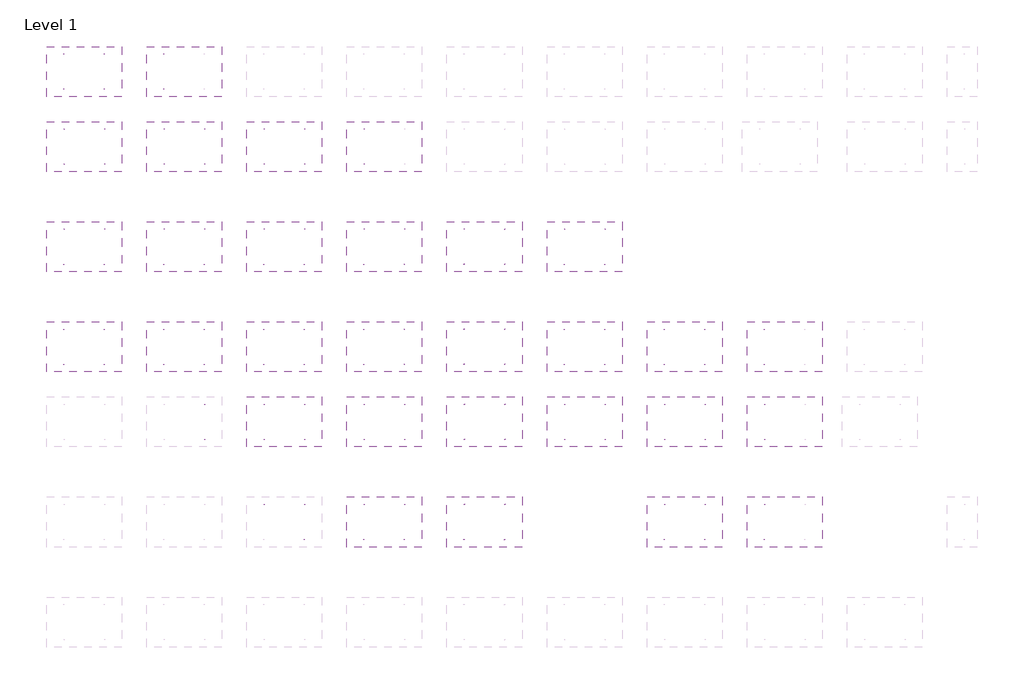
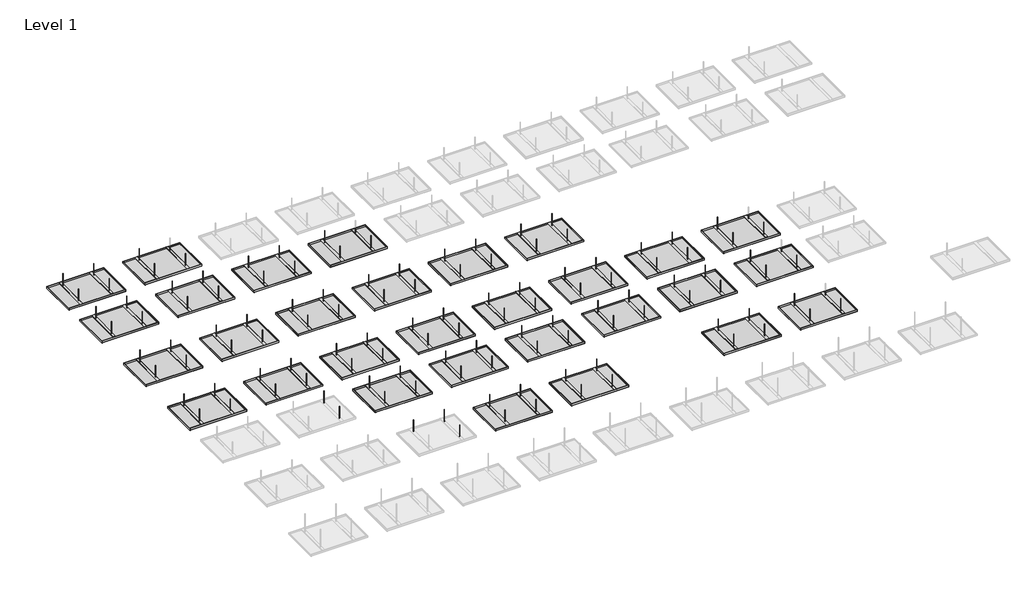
# One storey, part 17 of 32: 145 proxies.
"""IFC4 building model written with IfcOpenShell, lengths in millimetres."""

from ifc_helpers import new_model, si_unit, origin, place, context, project, spatial, transform, mapped, element, save
from components import generic_models_ee162b96, generic_models_85b4ffa8

model = new_model("IFC4")

# Units and contexts
model_context = context("Model", 3, world=origin())
ifc_project = project(units=[si_unit("LENGTHUNIT", "METRE", prefix="MILLI")], contexts=[model_context])

# Site, building, storey
site = spatial("IfcSite", under=ifc_project)
building = spatial("IfcBuilding", under=site)
storey = spatial("IfcBuildingStorey", under=building, Name="Level 1", Elevation=0.0)

# Proxies
placement = place(None, origin())
generic_models_shape = generic_models_ee162b96(model_context)
element("IfcBuildingElementProxy", 1, Name="durlum_threaded_rod_M6 : durlum_threaded_rod_M6", ObjectType="durlum_threaded_rod_M6 : durlum_threaded_rod_M6", at=placement, inside=storey, context=model_context, shape_type="MappedRepresentation", body=[
    mapped(generic_models_shape, transform((-45821.531136, 22508.7392516, 3672.1013669), x_axis=(0.0, -1.0, 0.0), y_axis=(1.0, 0.0, 0.0), z_axis=(0.0, 0.0, 1.0))),
])
element("IfcBuildingElementProxy", 2, Name="durlum_threaded_rod_M6 : durlum_threaded_rod_M6", ObjectType="durlum_threaded_rod_M6 : durlum_threaded_rod_M6", at=placement, inside=storey, context=model_context, shape_type="MappedRepresentation", body=[
    mapped(generic_models_shape, transform((-45821.531136, 23208.7392516, 3672.1013669), x_axis=(0.0, -1.0, 0.0), y_axis=(1.0, 0.0, 0.0), z_axis=(0.0, 0.0, 1.0))),
])
element("IfcBuildingElementProxy", 3, Name="durlum_threaded_rod_M6 : durlum_threaded_rod_M6", ObjectType="durlum_threaded_rod_M6 : durlum_threaded_rod_M6", at=placement, inside=storey, context=model_context, shape_type="MappedRepresentation", body=[
    mapped(generic_models_shape, transform((-46631.531136, 22508.7392516, 3672.1013669), x_axis=(0.0, -1.0, 0.0), y_axis=(1.0, 0.0, 0.0), z_axis=(0.0, 0.0, 1.0))),
])
element("IfcBuildingElementProxy", 4, Name="durlum_threaded_rod_M6 : durlum_threaded_rod_M6", ObjectType="durlum_threaded_rod_M6 : durlum_threaded_rod_M6", at=placement, inside=storey, context=model_context, shape_type="MappedRepresentation", body=[
    mapped(generic_models_shape, transform((-46631.531136, 23208.7392516, 3672.1013669), x_axis=(0.0, -1.0, 0.0), y_axis=(1.0, 0.0, 0.0), z_axis=(0.0, 0.0, 1.0))),
])
element("IfcBuildingElementProxy", 5, Name="durlum_threaded_rod_M6 : durlum_threaded_rod_M6", ObjectType="durlum_threaded_rod_M6 : durlum_threaded_rod_M6", at=placement, inside=storey, context=model_context, shape_type="MappedRepresentation", body=[
    mapped(generic_models_shape, transform((-43821.531136, 22508.7392516, 3672.1013669), x_axis=(0.0, -1.0, 0.0), y_axis=(1.0, 0.0, 0.0), z_axis=(0.0, 0.0, 1.0))),
])
element("IfcBuildingElementProxy", 6, Name="durlum_threaded_rod_M6 : durlum_threaded_rod_M6", ObjectType="durlum_threaded_rod_M6 : durlum_threaded_rod_M6", at=placement, inside=storey, context=model_context, shape_type="MappedRepresentation", body=[
    mapped(generic_models_shape, transform((-43821.531136, 23208.7392516, 3672.1013669), x_axis=(0.0, -1.0, 0.0), y_axis=(1.0, 0.0, 0.0), z_axis=(0.0, 0.0, 1.0))),
])
element("IfcBuildingElementProxy", 7, Name="durlum_threaded_rod_M6 : durlum_threaded_rod_M6", ObjectType="durlum_threaded_rod_M6 : durlum_threaded_rod_M6", at=placement, inside=storey, context=model_context, shape_type="MappedRepresentation", body=[
    mapped(generic_models_shape, transform((-44631.531136, 22508.7392516, 3672.1013669), x_axis=(0.0, -1.0, 0.0), y_axis=(1.0, 0.0, 0.0), z_axis=(0.0, 0.0, 1.0))),
])
element("IfcBuildingElementProxy", 8, Name="durlum_threaded_rod_M6 : durlum_threaded_rod_M6", ObjectType="durlum_threaded_rod_M6 : durlum_threaded_rod_M6", at=placement, inside=storey, context=model_context, shape_type="MappedRepresentation", body=[
    mapped(generic_models_shape, transform((-44631.531136, 23208.7392516, 3672.1013669), x_axis=(0.0, -1.0, 0.0), y_axis=(1.0, 0.0, 0.0), z_axis=(0.0, 0.0, 1.0))),
])
element("IfcBuildingElementProxy", 9, Name="durlum_threaded_rod_M6 : durlum_threaded_rod_M6", ObjectType="durlum_threaded_rod_M6 : durlum_threaded_rod_M6", at=placement, inside=storey, context=model_context, shape_type="MappedRepresentation", body=[
    mapped(generic_models_shape, transform((-41821.531136, 22508.7392516, 3672.1013669), x_axis=(0.0, -1.0, 0.0), y_axis=(1.0, 0.0, 0.0), z_axis=(0.0, 0.0, 1.0))),
])
element("IfcBuildingElementProxy", 10, Name="durlum_threaded_rod_M6 : durlum_threaded_rod_M6", ObjectType="durlum_threaded_rod_M6 : durlum_threaded_rod_M6", at=placement, inside=storey, context=model_context, shape_type="MappedRepresentation", body=[
    mapped(generic_models_shape, transform((-41821.531136, 23208.7392516, 3672.1013669), x_axis=(0.0, -1.0, 0.0), y_axis=(1.0, 0.0, 0.0), z_axis=(0.0, 0.0, 1.0))),
])
element("IfcBuildingElementProxy", 11, Name="durlum_threaded_rod_M6 : durlum_threaded_rod_M6", ObjectType="durlum_threaded_rod_M6 : durlum_threaded_rod_M6", at=placement, inside=storey, context=model_context, shape_type="MappedRepresentation", body=[
    mapped(generic_models_shape, transform((-42631.531136, 22508.7392516, 3672.1013669), x_axis=(0.0, -1.0, 0.0), y_axis=(1.0, 0.0, 0.0), z_axis=(0.0, 0.0, 1.0))),
])
element("IfcBuildingElementProxy", 12, Name="durlum_threaded_rod_M6 : durlum_threaded_rod_M6", ObjectType="durlum_threaded_rod_M6 : durlum_threaded_rod_M6", at=placement, inside=storey, context=model_context, shape_type="MappedRepresentation", body=[
    mapped(generic_models_shape, transform((-42631.531136, 23208.7392516, 3672.1013669), x_axis=(0.0, -1.0, 0.0), y_axis=(1.0, 0.0, 0.0), z_axis=(0.0, 0.0, 1.0))),
])
element("IfcBuildingElementProxy", 13, Name="durlum_threaded_rod_M6 : durlum_threaded_rod_M6", ObjectType="durlum_threaded_rod_M6 : durlum_threaded_rod_M6", at=placement, inside=storey, context=model_context, shape_type="MappedRepresentation", body=[
    mapped(generic_models_shape, transform((-39821.531136, 22508.7392516, 3672.1013669), x_axis=(0.0, -1.0, 0.0), y_axis=(1.0, 0.0, 0.0), z_axis=(0.0, 0.0, 1.0))),
])
element("IfcBuildingElementProxy", 14, Name="durlum_threaded_rod_M6 : durlum_threaded_rod_M6", ObjectType="durlum_threaded_rod_M6 : durlum_threaded_rod_M6", at=placement, inside=storey, context=model_context, shape_type="MappedRepresentation", body=[
    mapped(generic_models_shape, transform((-39821.531136, 23208.7392516, 3672.1013669), x_axis=(0.0, -1.0, 0.0), y_axis=(1.0, 0.0, 0.0), z_axis=(0.0, 0.0, 1.0))),
])
element("IfcBuildingElementProxy", 15, Name="durlum_threaded_rod_M6 : durlum_threaded_rod_M6", ObjectType="durlum_threaded_rod_M6 : durlum_threaded_rod_M6", at=placement, inside=storey, context=model_context, shape_type="MappedRepresentation", body=[
    mapped(generic_models_shape, transform((-40631.531136, 22508.7392516, 3672.1013669), x_axis=(0.0, -1.0, 0.0), y_axis=(1.0, 0.0, 0.0), z_axis=(0.0, 0.0, 1.0))),
])
element("IfcBuildingElementProxy", 16, Name="durlum_threaded_rod_M6 : durlum_threaded_rod_M6", ObjectType="durlum_threaded_rod_M6 : durlum_threaded_rod_M6", at=placement, inside=storey, context=model_context, shape_type="MappedRepresentation", body=[
    mapped(generic_models_shape, transform((-40631.531136, 23208.7392516, 3672.1013669), x_axis=(0.0, -1.0, 0.0), y_axis=(1.0, 0.0, 0.0), z_axis=(0.0, 0.0, 1.0))),
])
element("IfcBuildingElementProxy", 17, Name="durlum_threaded_rod_M6 : durlum_threaded_rod_M6", ObjectType="durlum_threaded_rod_M6 : durlum_threaded_rod_M6", at=placement, inside=storey, context=model_context, shape_type="MappedRepresentation", body=[
    mapped(generic_models_shape, transform((-37821.531136, 22508.7392516, 3672.1013669), x_axis=(0.0, -1.0, 0.0), y_axis=(1.0, 0.0, 0.0), z_axis=(0.0, 0.0, 1.0))),
])
element("IfcBuildingElementProxy", 18, Name="durlum_threaded_rod_M6 : durlum_threaded_rod_M6", ObjectType="durlum_threaded_rod_M6 : durlum_threaded_rod_M6", at=placement, inside=storey, context=model_context, shape_type="MappedRepresentation", body=[
    mapped(generic_models_shape, transform((-37821.531136, 23208.7392516, 3672.1013669), x_axis=(0.0, -1.0, 0.0), y_axis=(1.0, 0.0, 0.0), z_axis=(0.0, 0.0, 1.0))),
])
element("IfcBuildingElementProxy", 19, Name="durlum_threaded_rod_M6 : durlum_threaded_rod_M6", ObjectType="durlum_threaded_rod_M6 : durlum_threaded_rod_M6", at=placement, inside=storey, context=model_context, shape_type="MappedRepresentation", body=[
    mapped(generic_models_shape, transform((-38631.531136, 22508.7392516, 3672.1013669), x_axis=(0.0, -1.0, 0.0), y_axis=(1.0, 0.0, 0.0), z_axis=(0.0, 0.0, 1.0))),
])
element("IfcBuildingElementProxy", 20, Name="durlum_threaded_rod_M6 : durlum_threaded_rod_M6", ObjectType="durlum_threaded_rod_M6 : durlum_threaded_rod_M6", at=placement, inside=storey, context=model_context, shape_type="MappedRepresentation", body=[
    mapped(generic_models_shape, transform((-38631.531136, 23208.7392516, 3672.1013669), x_axis=(0.0, -1.0, 0.0), y_axis=(1.0, 0.0, 0.0), z_axis=(0.0, 0.0, 1.0))),
])
element("IfcBuildingElementProxy", 21, Name="durlum_threaded_rod_M6 : durlum_threaded_rod_M6", ObjectType="durlum_threaded_rod_M6 : durlum_threaded_rod_M6", at=placement, inside=storey, context=model_context, shape_type="MappedRepresentation", body=[
    mapped(generic_models_shape, transform((-35821.531136, 22508.7392516, 3672.1013669), x_axis=(0.0, -1.0, 0.0), y_axis=(1.0, 0.0, 0.0), z_axis=(0.0, 0.0, 1.0))),
])
element("IfcBuildingElementProxy", 22, Name="durlum_threaded_rod_M6 : durlum_threaded_rod_M6", ObjectType="durlum_threaded_rod_M6 : durlum_threaded_rod_M6", at=placement, inside=storey, context=model_context, shape_type="MappedRepresentation", body=[
    mapped(generic_models_shape, transform((-35821.531136, 23208.7392516, 3672.1013669), x_axis=(0.0, -1.0, 0.0), y_axis=(1.0, 0.0, 0.0), z_axis=(0.0, 0.0, 1.0))),
])
element("IfcBuildingElementProxy", 23, Name="durlum_threaded_rod_M6 : durlum_threaded_rod_M6", ObjectType="durlum_threaded_rod_M6 : durlum_threaded_rod_M6", at=placement, inside=storey, context=model_context, shape_type="MappedRepresentation", body=[
    mapped(generic_models_shape, transform((-36631.531136, 22508.7392516, 3672.1013669), x_axis=(0.0, -1.0, 0.0), y_axis=(1.0, 0.0, 0.0), z_axis=(0.0, 0.0, 1.0))),
])
element("IfcBuildingElementProxy", 24, Name="durlum_threaded_rod_M6 : durlum_threaded_rod_M6", ObjectType="durlum_threaded_rod_M6 : durlum_threaded_rod_M6", at=placement, inside=storey, context=model_context, shape_type="MappedRepresentation", body=[
    mapped(generic_models_shape, transform((-36631.531136, 23208.7392516, 3672.1013669), x_axis=(0.0, -1.0, 0.0), y_axis=(1.0, 0.0, 0.0), z_axis=(0.0, 0.0, 1.0))),
])
element("IfcBuildingElementProxy", 25, Name="durlum_threaded_rod_M6 : durlum_threaded_rod_M6", ObjectType="durlum_threaded_rod_M6 : durlum_threaded_rod_M6", at=placement, inside=storey, context=model_context, shape_type="MappedRepresentation", body=[
    mapped(generic_models_shape, transform((-45821.531136, 20508.7392516, 3672.1013669), x_axis=(0.0, -1.0, 0.0), y_axis=(1.0, 0.0, 0.0), z_axis=(0.0, 0.0, 1.0))),
])
element("IfcBuildingElementProxy", 26, Name="durlum_threaded_rod_M6 : durlum_threaded_rod_M6", ObjectType="durlum_threaded_rod_M6 : durlum_threaded_rod_M6", at=placement, inside=storey, context=model_context, shape_type="MappedRepresentation", body=[
    mapped(generic_models_shape, transform((-45821.531136, 21208.7392516, 3672.1013669), x_axis=(0.0, -1.0, 0.0), y_axis=(1.0, 0.0, 0.0), z_axis=(0.0, 0.0, 1.0))),
])
element("IfcBuildingElementProxy", 27, Name="durlum_threaded_rod_M6 : durlum_threaded_rod_M6", ObjectType="durlum_threaded_rod_M6 : durlum_threaded_rod_M6", at=placement, inside=storey, context=model_context, shape_type="MappedRepresentation", body=[
    mapped(generic_models_shape, transform((-46631.531136, 20508.7392516, 3672.1013669), x_axis=(0.0, -1.0, 0.0), y_axis=(1.0, 0.0, 0.0), z_axis=(0.0, 0.0, 1.0))),
])
element("IfcBuildingElementProxy", 28, Name="durlum_threaded_rod_M6 : durlum_threaded_rod_M6", ObjectType="durlum_threaded_rod_M6 : durlum_threaded_rod_M6", at=placement, inside=storey, context=model_context, shape_type="MappedRepresentation", body=[
    mapped(generic_models_shape, transform((-46631.531136, 21208.7392516, 3672.1013669), x_axis=(0.0, -1.0, 0.0), y_axis=(1.0, 0.0, 0.0), z_axis=(0.0, 0.0, 1.0))),
])
element("IfcBuildingElementProxy", 29, Name="durlum_threaded_rod_M6 : durlum_threaded_rod_M6", ObjectType="durlum_threaded_rod_M6 : durlum_threaded_rod_M6", at=placement, inside=storey, context=model_context, shape_type="MappedRepresentation", body=[
    mapped(generic_models_shape, transform((-43821.531136, 20508.7392516, 3672.1013669), x_axis=(0.0, -1.0, 0.0), y_axis=(1.0, 0.0, 0.0), z_axis=(0.0, 0.0, 1.0))),
])
element("IfcBuildingElementProxy", 30, Name="durlum_threaded_rod_M6 : durlum_threaded_rod_M6", ObjectType="durlum_threaded_rod_M6 : durlum_threaded_rod_M6", at=placement, inside=storey, context=model_context, shape_type="MappedRepresentation", body=[
    mapped(generic_models_shape, transform((-43821.531136, 21208.7392516, 3672.1013669), x_axis=(0.0, -1.0, 0.0), y_axis=(1.0, 0.0, 0.0), z_axis=(0.0, 0.0, 1.0))),
])
element("IfcBuildingElementProxy", 31, Name="durlum_threaded_rod_M6 : durlum_threaded_rod_M6", ObjectType="durlum_threaded_rod_M6 : durlum_threaded_rod_M6", at=placement, inside=storey, context=model_context, shape_type="MappedRepresentation", body=[
    mapped(generic_models_shape, transform((-44631.531136, 20508.7392516, 3672.1013669), x_axis=(0.0, -1.0, 0.0), y_axis=(1.0, 0.0, 0.0), z_axis=(0.0, 0.0, 1.0))),
])
element("IfcBuildingElementProxy", 32, Name="durlum_threaded_rod_M6 : durlum_threaded_rod_M6", ObjectType="durlum_threaded_rod_M6 : durlum_threaded_rod_M6", at=placement, inside=storey, context=model_context, shape_type="MappedRepresentation", body=[
    mapped(generic_models_shape, transform((-44631.531136, 21208.7392516, 3672.1013669), x_axis=(0.0, -1.0, 0.0), y_axis=(1.0, 0.0, 0.0), z_axis=(0.0, 0.0, 1.0))),
])
element("IfcBuildingElementProxy", 33, Name="durlum_threaded_rod_M6 : durlum_threaded_rod_M6", ObjectType="durlum_threaded_rod_M6 : durlum_threaded_rod_M6", at=placement, inside=storey, context=model_context, shape_type="MappedRepresentation", body=[
    mapped(generic_models_shape, transform((-41821.531136, 20508.7392516, 3672.1013669), x_axis=(0.0, -1.0, 0.0), y_axis=(1.0, 0.0, 0.0), z_axis=(0.0, 0.0, 1.0))),
])
element("IfcBuildingElementProxy", 34, Name="durlum_threaded_rod_M6 : durlum_threaded_rod_M6", ObjectType="durlum_threaded_rod_M6 : durlum_threaded_rod_M6", at=placement, inside=storey, context=model_context, shape_type="MappedRepresentation", body=[
    mapped(generic_models_shape, transform((-41821.531136, 21208.7392516, 3672.1013669), x_axis=(0.0, -1.0, 0.0), y_axis=(1.0, 0.0, 0.0), z_axis=(0.0, 0.0, 1.0))),
])
element("IfcBuildingElementProxy", 35, Name="durlum_threaded_rod_M6 : durlum_threaded_rod_M6", ObjectType="durlum_threaded_rod_M6 : durlum_threaded_rod_M6", at=placement, inside=storey, context=model_context, shape_type="MappedRepresentation", body=[
    mapped(generic_models_shape, transform((-42631.531136, 20508.7392516, 3672.1013669), x_axis=(0.0, -1.0, 0.0), y_axis=(1.0, 0.0, 0.0), z_axis=(0.0, 0.0, 1.0))),
])
element("IfcBuildingElementProxy", 36, Name="durlum_threaded_rod_M6 : durlum_threaded_rod_M6", ObjectType="durlum_threaded_rod_M6 : durlum_threaded_rod_M6", at=placement, inside=storey, context=model_context, shape_type="MappedRepresentation", body=[
    mapped(generic_models_shape, transform((-42631.531136, 21208.7392516, 3672.1013669), x_axis=(0.0, -1.0, 0.0), y_axis=(1.0, 0.0, 0.0), z_axis=(0.0, 0.0, 1.0))),
])
element("IfcBuildingElementProxy", 37, Name="durlum_threaded_rod_M6 : durlum_threaded_rod_M6", ObjectType="durlum_threaded_rod_M6 : durlum_threaded_rod_M6", at=placement, inside=storey, context=model_context, shape_type="MappedRepresentation", body=[
    mapped(generic_models_shape, transform((-39821.531136, 20508.7392516, 3672.1013669), x_axis=(0.0, -1.0, 0.0), y_axis=(1.0, 0.0, 0.0), z_axis=(0.0, 0.0, 1.0))),
])
element("IfcBuildingElementProxy", 38, Name="durlum_threaded_rod_M6 : durlum_threaded_rod_M6", ObjectType="durlum_threaded_rod_M6 : durlum_threaded_rod_M6", at=placement, inside=storey, context=model_context, shape_type="MappedRepresentation", body=[
    mapped(generic_models_shape, transform((-39821.531136, 21208.7392516, 3672.1013669), x_axis=(0.0, -1.0, 0.0), y_axis=(1.0, 0.0, 0.0), z_axis=(0.0, 0.0, 1.0))),
])
element("IfcBuildingElementProxy", 39, Name="durlum_threaded_rod_M6 : durlum_threaded_rod_M6", ObjectType="durlum_threaded_rod_M6 : durlum_threaded_rod_M6", at=placement, inside=storey, context=model_context, shape_type="MappedRepresentation", body=[
    mapped(generic_models_shape, transform((-40631.531136, 20508.7392516, 3672.1013669), x_axis=(0.0, -1.0, 0.0), y_axis=(1.0, 0.0, 0.0), z_axis=(0.0, 0.0, 1.0))),
])
element("IfcBuildingElementProxy", 40, Name="durlum_threaded_rod_M6 : durlum_threaded_rod_M6", ObjectType="durlum_threaded_rod_M6 : durlum_threaded_rod_M6", at=placement, inside=storey, context=model_context, shape_type="MappedRepresentation", body=[
    mapped(generic_models_shape, transform((-40631.531136, 21208.7392516, 3672.1013669), x_axis=(0.0, -1.0, 0.0), y_axis=(1.0, 0.0, 0.0), z_axis=(0.0, 0.0, 1.0))),
])
element("IfcBuildingElementProxy", 41, Name="durlum_threaded_rod_M6 : durlum_threaded_rod_M6", ObjectType="durlum_threaded_rod_M6 : durlum_threaded_rod_M6", at=placement, inside=storey, context=model_context, shape_type="MappedRepresentation", body=[
    mapped(generic_models_shape, transform((-37821.531136, 20508.7392516, 3672.1013669), x_axis=(0.0, -1.0, 0.0), y_axis=(1.0, 0.0, 0.0), z_axis=(0.0, 0.0, 1.0))),
])
element("IfcBuildingElementProxy", 42, Name="durlum_threaded_rod_M6 : durlum_threaded_rod_M6", ObjectType="durlum_threaded_rod_M6 : durlum_threaded_rod_M6", at=placement, inside=storey, context=model_context, shape_type="MappedRepresentation", body=[
    mapped(generic_models_shape, transform((-37821.531136, 21208.7392516, 3672.1013669), x_axis=(0.0, -1.0, 0.0), y_axis=(1.0, 0.0, 0.0), z_axis=(0.0, 0.0, 1.0))),
])
element("IfcBuildingElementProxy", 43, Name="durlum_threaded_rod_M6 : durlum_threaded_rod_M6", ObjectType="durlum_threaded_rod_M6 : durlum_threaded_rod_M6", at=placement, inside=storey, context=model_context, shape_type="MappedRepresentation", body=[
    mapped(generic_models_shape, transform((-38631.531136, 20508.7392516, 3672.1013669), x_axis=(0.0, -1.0, 0.0), y_axis=(1.0, 0.0, 0.0), z_axis=(0.0, 0.0, 1.0))),
])
element("IfcBuildingElementProxy", 44, Name="durlum_threaded_rod_M6 : durlum_threaded_rod_M6", ObjectType="durlum_threaded_rod_M6 : durlum_threaded_rod_M6", at=placement, inside=storey, context=model_context, shape_type="MappedRepresentation", body=[
    mapped(generic_models_shape, transform((-38631.531136, 21208.7392516, 3672.1013669), x_axis=(0.0, -1.0, 0.0), y_axis=(1.0, 0.0, 0.0), z_axis=(0.0, 0.0, 1.0))),
])
element("IfcBuildingElementProxy", 45, Name="durlum_threaded_rod_M6 : durlum_threaded_rod_M6", ObjectType="durlum_threaded_rod_M6 : durlum_threaded_rod_M6", at=placement, inside=storey, context=model_context, shape_type="MappedRepresentation", body=[
    mapped(generic_models_shape, transform((-35821.531136, 20508.7392516, 3672.1013669), x_axis=(0.0, -1.0, 0.0), y_axis=(1.0, 0.0, 0.0), z_axis=(0.0, 0.0, 1.0))),
])
element("IfcBuildingElementProxy", 46, Name="durlum_threaded_rod_M6 : durlum_threaded_rod_M6", ObjectType="durlum_threaded_rod_M6 : durlum_threaded_rod_M6", at=placement, inside=storey, context=model_context, shape_type="MappedRepresentation", body=[
    mapped(generic_models_shape, transform((-35821.531136, 21208.7392516, 3672.1013669), x_axis=(0.0, -1.0, 0.0), y_axis=(1.0, 0.0, 0.0), z_axis=(0.0, 0.0, 1.0))),
])
element("IfcBuildingElementProxy", 47, Name="durlum_threaded_rod_M6 : durlum_threaded_rod_M6", ObjectType="durlum_threaded_rod_M6 : durlum_threaded_rod_M6", at=placement, inside=storey, context=model_context, shape_type="MappedRepresentation", body=[
    mapped(generic_models_shape, transform((-36631.531136, 20508.7392516, 3672.1013669), x_axis=(0.0, -1.0, 0.0), y_axis=(1.0, 0.0, 0.0), z_axis=(0.0, 0.0, 1.0))),
])
element("IfcBuildingElementProxy", 48, Name="durlum_threaded_rod_M6 : durlum_threaded_rod_M6", ObjectType="durlum_threaded_rod_M6 : durlum_threaded_rod_M6", at=placement, inside=storey, context=model_context, shape_type="MappedRepresentation", body=[
    mapped(generic_models_shape, transform((-36631.531136, 21208.7392516, 3672.1013669), x_axis=(0.0, -1.0, 0.0), y_axis=(1.0, 0.0, 0.0), z_axis=(0.0, 0.0, 1.0))),
])
element("IfcBuildingElementProxy", 49, Name="durlum_threaded_rod_M6 : durlum_threaded_rod_M6", ObjectType="durlum_threaded_rod_M6 : durlum_threaded_rod_M6", at=placement, inside=storey, context=model_context, shape_type="MappedRepresentation", body=[
    mapped(generic_models_shape, transform((-33821.531136, 20508.7392516, 3672.1013669), x_axis=(0.0, -1.0, 0.0), y_axis=(1.0, 0.0, 0.0), z_axis=(0.0, 0.0, 1.0))),
])
element("IfcBuildingElementProxy", 50, Name="durlum_threaded_rod_M6 : durlum_threaded_rod_M6", ObjectType="durlum_threaded_rod_M6 : durlum_threaded_rod_M6", at=placement, inside=storey, context=model_context, shape_type="MappedRepresentation", body=[
    mapped(generic_models_shape, transform((-33821.531136, 21208.7392516, 3672.1013669), x_axis=(0.0, -1.0, 0.0), y_axis=(1.0, 0.0, 0.0), z_axis=(0.0, 0.0, 1.0))),
])
element("IfcBuildingElementProxy", 51, Name="durlum_threaded_rod_M6 : durlum_threaded_rod_M6", ObjectType="durlum_threaded_rod_M6 : durlum_threaded_rod_M6", at=placement, inside=storey, context=model_context, shape_type="MappedRepresentation", body=[
    mapped(generic_models_shape, transform((-34631.531136, 20508.7392516, 3672.1013669), x_axis=(0.0, -1.0, 0.0), y_axis=(1.0, 0.0, 0.0), z_axis=(0.0, 0.0, 1.0))),
])
element("IfcBuildingElementProxy", 52, Name="durlum_threaded_rod_M6 : durlum_threaded_rod_M6", ObjectType="durlum_threaded_rod_M6 : durlum_threaded_rod_M6", at=placement, inside=storey, context=model_context, shape_type="MappedRepresentation", body=[
    mapped(generic_models_shape, transform((-34631.531136, 21208.7392516, 3672.1013669), x_axis=(0.0, -1.0, 0.0), y_axis=(1.0, 0.0, 0.0), z_axis=(0.0, 0.0, 1.0))),
])
element("IfcBuildingElementProxy", 53, Name="durlum_threaded_rod_M6 : durlum_threaded_rod_M6", ObjectType="durlum_threaded_rod_M6 : durlum_threaded_rod_M6", at=placement, inside=storey, context=model_context, shape_type="MappedRepresentation", body=[
    mapped(generic_models_shape, transform((-32631.531136, 20508.7392516, 3672.1013669), x_axis=(0.0, -1.0, 0.0), y_axis=(1.0, 0.0, 0.0), z_axis=(0.0, 0.0, 1.0))),
])
element("IfcBuildingElementProxy", 54, Name="durlum_threaded_rod_M6 : durlum_threaded_rod_M6", ObjectType="durlum_threaded_rod_M6 : durlum_threaded_rod_M6", at=placement, inside=storey, context=model_context, shape_type="MappedRepresentation", body=[
    mapped(generic_models_shape, transform((-32631.531136, 21208.7392516, 3672.1013669), x_axis=(0.0, -1.0, 0.0), y_axis=(1.0, 0.0, 0.0), z_axis=(0.0, 0.0, 1.0))),
])
element("IfcBuildingElementProxy", 55, Name="durlum_threaded_rod_M6 : durlum_threaded_rod_M6", ObjectType="durlum_threaded_rod_M6 : durlum_threaded_rod_M6", at=placement, inside=storey, context=model_context, shape_type="MappedRepresentation", body=[
    mapped(generic_models_shape, transform((-45821.531136, 26008.7392516, 3672.1013669), x_axis=(0.0, -1.0, 0.0), y_axis=(1.0, 0.0, 0.0), z_axis=(0.0, 0.0, 1.0))),
])
element("IfcBuildingElementProxy", 56, Name="durlum_threaded_rod_M6 : durlum_threaded_rod_M6", ObjectType="durlum_threaded_rod_M6 : durlum_threaded_rod_M6", at=placement, inside=storey, context=model_context, shape_type="MappedRepresentation", body=[
    mapped(generic_models_shape, transform((-45821.531136, 26708.7392516, 3672.1013669), x_axis=(0.0, -1.0, 0.0), y_axis=(1.0, 0.0, 0.0), z_axis=(0.0, 0.0, 1.0))),
])
element("IfcBuildingElementProxy", 57, Name="durlum_threaded_rod_M6 : durlum_threaded_rod_M6", ObjectType="durlum_threaded_rod_M6 : durlum_threaded_rod_M6", at=placement, inside=storey, context=model_context, shape_type="MappedRepresentation", body=[
    mapped(generic_models_shape, transform((-46631.531136, 26008.7392516, 3672.1013669), x_axis=(0.0, -1.0, 0.0), y_axis=(1.0, 0.0, 0.0), z_axis=(0.0, 0.0, 1.0))),
])
element("IfcBuildingElementProxy", 58, Name="durlum_threaded_rod_M6 : durlum_threaded_rod_M6", ObjectType="durlum_threaded_rod_M6 : durlum_threaded_rod_M6", at=placement, inside=storey, context=model_context, shape_type="MappedRepresentation", body=[
    mapped(generic_models_shape, transform((-46631.531136, 26708.7392516, 3672.1013669), x_axis=(0.0, -1.0, 0.0), y_axis=(1.0, 0.0, 0.0), z_axis=(0.0, 0.0, 1.0))),
])
element("IfcBuildingElementProxy", 59, Name="durlum_threaded_rod_M6 : durlum_threaded_rod_M6", ObjectType="durlum_threaded_rod_M6 : durlum_threaded_rod_M6", at=placement, inside=storey, context=model_context, shape_type="MappedRepresentation", body=[
    mapped(generic_models_shape, transform((-44631.531136, 26008.7392516, 3672.1013669), x_axis=(0.0, -1.0, 0.0), y_axis=(1.0, 0.0, 0.0), z_axis=(0.0, 0.0, 1.0))),
])
element("IfcBuildingElementProxy", 60, Name="durlum_threaded_rod_M6 : durlum_threaded_rod_M6", ObjectType="durlum_threaded_rod_M6 : durlum_threaded_rod_M6", at=placement, inside=storey, context=model_context, shape_type="MappedRepresentation", body=[
    mapped(generic_models_shape, transform((-44631.531136, 26708.7392516, 3672.1013669), x_axis=(0.0, -1.0, 0.0), y_axis=(1.0, 0.0, 0.0), z_axis=(0.0, 0.0, 1.0))),
])
element("IfcBuildingElementProxy", 61, Name="durlum_threaded_rod_M6 : durlum_threaded_rod_M6", ObjectType="durlum_threaded_rod_M6 : durlum_threaded_rod_M6", at=placement, inside=storey, context=model_context, shape_type="MappedRepresentation", body=[
    mapped(generic_models_shape, transform((-45821.531136, 24508.7392516, 3672.1013669), x_axis=(0.0, -1.0, 0.0), y_axis=(1.0, 0.0, 0.0), z_axis=(0.0, 0.0, 1.0))),
])
element("IfcBuildingElementProxy", 62, Name="durlum_threaded_rod_M6 : durlum_threaded_rod_M6", ObjectType="durlum_threaded_rod_M6 : durlum_threaded_rod_M6", at=placement, inside=storey, context=model_context, shape_type="MappedRepresentation", body=[
    mapped(generic_models_shape, transform((-45821.531136, 25208.7392516, 3672.1013669), x_axis=(0.0, -1.0, 0.0), y_axis=(1.0, 0.0, 0.0), z_axis=(0.0, 0.0, 1.0))),
])
element("IfcBuildingElementProxy", 63, Name="durlum_threaded_rod_M6 : durlum_threaded_rod_M6", ObjectType="durlum_threaded_rod_M6 : durlum_threaded_rod_M6", at=placement, inside=storey, context=model_context, shape_type="MappedRepresentation", body=[
    mapped(generic_models_shape, transform((-46631.531136, 24508.7392516, 3672.1013669), x_axis=(0.0, -1.0, 0.0), y_axis=(1.0, 0.0, 0.0), z_axis=(0.0, 0.0, 1.0))),
])
element("IfcBuildingElementProxy", 64, Name="durlum_threaded_rod_M6 : durlum_threaded_rod_M6", ObjectType="durlum_threaded_rod_M6 : durlum_threaded_rod_M6", at=placement, inside=storey, context=model_context, shape_type="MappedRepresentation", body=[
    mapped(generic_models_shape, transform((-46631.531136, 25208.7392516, 3672.1013669), x_axis=(0.0, -1.0, 0.0), y_axis=(1.0, 0.0, 0.0), z_axis=(0.0, 0.0, 1.0))),
])
element("IfcBuildingElementProxy", 65, Name="durlum_threaded_rod_M6 : durlum_threaded_rod_M6", ObjectType="durlum_threaded_rod_M6 : durlum_threaded_rod_M6", at=placement, inside=storey, context=model_context, shape_type="MappedRepresentation", body=[
    mapped(generic_models_shape, transform((-41821.531136, 24508.7392516, 3672.1013669), x_axis=(0.0, -1.0, 0.0), y_axis=(1.0, 0.0, 0.0), z_axis=(0.0, 0.0, 1.0))),
])
element("IfcBuildingElementProxy", 66, Name="durlum_threaded_rod_M6 : durlum_threaded_rod_M6", ObjectType="durlum_threaded_rod_M6 : durlum_threaded_rod_M6", at=placement, inside=storey, context=model_context, shape_type="MappedRepresentation", body=[
    mapped(generic_models_shape, transform((-41821.531136, 25208.7392516, 3672.1013669), x_axis=(0.0, -1.0, 0.0), y_axis=(1.0, 0.0, 0.0), z_axis=(0.0, 0.0, 1.0))),
])
element("IfcBuildingElementProxy", 67, Name="durlum_threaded_rod_M6 : durlum_threaded_rod_M6", ObjectType="durlum_threaded_rod_M6 : durlum_threaded_rod_M6", at=placement, inside=storey, context=model_context, shape_type="MappedRepresentation", body=[
    mapped(generic_models_shape, transform((-42631.531136, 24508.7392516, 3672.1013669), x_axis=(0.0, -1.0, 0.0), y_axis=(1.0, 0.0, 0.0), z_axis=(0.0, 0.0, 1.0))),
])
element("IfcBuildingElementProxy", 68, Name="durlum_threaded_rod_M6 : durlum_threaded_rod_M6", ObjectType="durlum_threaded_rod_M6 : durlum_threaded_rod_M6", at=placement, inside=storey, context=model_context, shape_type="MappedRepresentation", body=[
    mapped(generic_models_shape, transform((-42631.531136, 25208.7392516, 3672.1013669), x_axis=(0.0, -1.0, 0.0), y_axis=(1.0, 0.0, 0.0), z_axis=(0.0, 0.0, 1.0))),
])
element("IfcBuildingElementProxy", 69, Name="durlum_threaded_rod_M6 : durlum_threaded_rod_M6", ObjectType="durlum_threaded_rod_M6 : durlum_threaded_rod_M6", at=placement, inside=storey, context=model_context, shape_type="MappedRepresentation", body=[
    mapped(generic_models_shape, transform((-40631.531136, 24508.7392516, 3672.1013669), x_axis=(0.0, -1.0, 0.0), y_axis=(1.0, 0.0, 0.0), z_axis=(0.0, 0.0, 1.0))),
])
element("IfcBuildingElementProxy", 70, Name="durlum_threaded_rod_M6 : durlum_threaded_rod_M6", ObjectType="durlum_threaded_rod_M6 : durlum_threaded_rod_M6", at=placement, inside=storey, context=model_context, shape_type="MappedRepresentation", body=[
    mapped(generic_models_shape, transform((-40631.531136, 25208.7392516, 3672.1013669), x_axis=(0.0, -1.0, 0.0), y_axis=(1.0, 0.0, 0.0), z_axis=(0.0, 0.0, 1.0))),
])
element("IfcBuildingElementProxy", 71, Name="durlum_threaded_rod_M6 : durlum_threaded_rod_M6", ObjectType="durlum_threaded_rod_M6 : durlum_threaded_rod_M6", at=placement, inside=storey, context=model_context, shape_type="MappedRepresentation", body=[
    mapped(generic_models_shape, transform((-43821.531136, 24508.7392516, 3672.1013669), x_axis=(0.0, -1.0, 0.0), y_axis=(1.0, 0.0, 0.0), z_axis=(0.0, 0.0, 1.0))),
])
element("IfcBuildingElementProxy", 72, Name="durlum_threaded_rod_M6 : durlum_threaded_rod_M6", ObjectType="durlum_threaded_rod_M6 : durlum_threaded_rod_M6", at=placement, inside=storey, context=model_context, shape_type="MappedRepresentation", body=[
    mapped(generic_models_shape, transform((-43821.531136, 25208.7392516, 3672.1013669), x_axis=(0.0, -1.0, 0.0), y_axis=(1.0, 0.0, 0.0), z_axis=(0.0, 0.0, 1.0))),
])
element("IfcBuildingElementProxy", 73, Name="durlum_threaded_rod_M6 : durlum_threaded_rod_M6", ObjectType="durlum_threaded_rod_M6 : durlum_threaded_rod_M6", at=placement, inside=storey, context=model_context, shape_type="MappedRepresentation", body=[
    mapped(generic_models_shape, transform((-44631.531136, 24508.7392516, 3672.1013669), x_axis=(0.0, -1.0, 0.0), y_axis=(1.0, 0.0, 0.0), z_axis=(0.0, 0.0, 1.0))),
])
element("IfcBuildingElementProxy", 74, Name="durlum_threaded_rod_M6 : durlum_threaded_rod_M6", ObjectType="durlum_threaded_rod_M6 : durlum_threaded_rod_M6", at=placement, inside=storey, context=model_context, shape_type="MappedRepresentation", body=[
    mapped(generic_models_shape, transform((-44631.531136, 25208.7392516, 3672.1013669), x_axis=(0.0, -1.0, 0.0), y_axis=(1.0, 0.0, 0.0), z_axis=(0.0, 0.0, 1.0))),
])
element("IfcBuildingElementProxy", 75, Name="durlum_threaded_rod_M6 : durlum_threaded_rod_M6", ObjectType="durlum_threaded_rod_M6 : durlum_threaded_rod_M6", at=placement, inside=storey, context=model_context, shape_type="MappedRepresentation", body=[
    mapped(generic_models_shape, transform((-41821.531136, 17008.7392516, 3672.1013669), x_axis=(0.0, -1.0, 0.0), y_axis=(1.0, 0.0, 0.0), z_axis=(0.0, 0.0, 1.0))),
])
element("IfcBuildingElementProxy", 76, Name="durlum_threaded_rod_M6 : durlum_threaded_rod_M6", ObjectType="durlum_threaded_rod_M6 : durlum_threaded_rod_M6", at=placement, inside=storey, context=model_context, shape_type="MappedRepresentation", body=[
    mapped(generic_models_shape, transform((-41821.531136, 17708.7392516, 3672.1013669), x_axis=(0.0, -1.0, 0.0), y_axis=(1.0, 0.0, 0.0), z_axis=(0.0, 0.0, 1.0))),
])
element("IfcBuildingElementProxy", 77, Name="durlum_threaded_rod_M6 : durlum_threaded_rod_M6", ObjectType="durlum_threaded_rod_M6 : durlum_threaded_rod_M6", at=placement, inside=storey, context=model_context, shape_type="MappedRepresentation", body=[
    mapped(generic_models_shape, transform((-42631.531136, 17708.7392516, 3672.1013669), x_axis=(0.0, -1.0, 0.0), y_axis=(1.0, 0.0, 0.0), z_axis=(0.0, 0.0, 1.0))),
])
element("IfcBuildingElementProxy", 78, Name="durlum_threaded_rod_M6 : durlum_threaded_rod_M6", ObjectType="durlum_threaded_rod_M6 : durlum_threaded_rod_M6", at=placement, inside=storey, context=model_context, shape_type="MappedRepresentation", body=[
    mapped(generic_models_shape, transform((-39821.531136, 17008.7392516, 3672.1013669), x_axis=(0.0, -1.0, 0.0), y_axis=(1.0, 0.0, 0.0), z_axis=(0.0, 0.0, 1.0))),
])
element("IfcBuildingElementProxy", 79, Name="durlum_threaded_rod_M6 : durlum_threaded_rod_M6", ObjectType="durlum_threaded_rod_M6 : durlum_threaded_rod_M6", at=placement, inside=storey, context=model_context, shape_type="MappedRepresentation", body=[
    mapped(generic_models_shape, transform((-39821.531136, 17708.7392516, 3672.1013669), x_axis=(0.0, -1.0, 0.0), y_axis=(1.0, 0.0, 0.0), z_axis=(0.0, 0.0, 1.0))),
])
element("IfcBuildingElementProxy", 80, Name="durlum_threaded_rod_M6 : durlum_threaded_rod_M6", ObjectType="durlum_threaded_rod_M6 : durlum_threaded_rod_M6", at=placement, inside=storey, context=model_context, shape_type="MappedRepresentation", body=[
    mapped(generic_models_shape, transform((-40631.531136, 17008.7392516, 3672.1013669), x_axis=(0.0, -1.0, 0.0), y_axis=(1.0, 0.0, 0.0), z_axis=(0.0, 0.0, 1.0))),
])
element("IfcBuildingElementProxy", 81, Name="durlum_threaded_rod_M6 : durlum_threaded_rod_M6", ObjectType="durlum_threaded_rod_M6 : durlum_threaded_rod_M6", at=placement, inside=storey, context=model_context, shape_type="MappedRepresentation", body=[
    mapped(generic_models_shape, transform((-40631.531136, 17708.7392516, 3672.1013669), x_axis=(0.0, -1.0, 0.0), y_axis=(1.0, 0.0, 0.0), z_axis=(0.0, 0.0, 1.0))),
])
element("IfcBuildingElementProxy", 82, Name="durlum_threaded_rod_M6 : durlum_threaded_rod_M6", ObjectType="durlum_threaded_rod_M6 : durlum_threaded_rod_M6", at=placement, inside=storey, context=model_context, shape_type="MappedRepresentation", body=[
    mapped(generic_models_shape, transform((-37821.531136, 17008.7392516, 3672.1013669), x_axis=(0.0, -1.0, 0.0), y_axis=(1.0, 0.0, 0.0), z_axis=(0.0, 0.0, 1.0))),
])
element("IfcBuildingElementProxy", 83, Name="durlum_threaded_rod_M6 : durlum_threaded_rod_M6", ObjectType="durlum_threaded_rod_M6 : durlum_threaded_rod_M6", at=placement, inside=storey, context=model_context, shape_type="MappedRepresentation", body=[
    mapped(generic_models_shape, transform((-37821.531136, 17708.7392516, 3672.1013669), x_axis=(0.0, -1.0, 0.0), y_axis=(1.0, 0.0, 0.0), z_axis=(0.0, 0.0, 1.0))),
])
element("IfcBuildingElementProxy", 84, Name="durlum_threaded_rod_M6 : durlum_threaded_rod_M6", ObjectType="durlum_threaded_rod_M6 : durlum_threaded_rod_M6", at=placement, inside=storey, context=model_context, shape_type="MappedRepresentation", body=[
    mapped(generic_models_shape, transform((-38631.531136, 17008.7392516, 3672.1013669), x_axis=(0.0, -1.0, 0.0), y_axis=(1.0, 0.0, 0.0), z_axis=(0.0, 0.0, 1.0))),
])
element("IfcBuildingElementProxy", 85, Name="durlum_threaded_rod_M6 : durlum_threaded_rod_M6", ObjectType="durlum_threaded_rod_M6 : durlum_threaded_rod_M6", at=placement, inside=storey, context=model_context, shape_type="MappedRepresentation", body=[
    mapped(generic_models_shape, transform((-38631.531136, 17708.7392516, 3672.1013669), x_axis=(0.0, -1.0, 0.0), y_axis=(1.0, 0.0, 0.0), z_axis=(0.0, 0.0, 1.0))),
])
element("IfcBuildingElementProxy", 86, Name="durlum_threaded_rod_M6 : durlum_threaded_rod_M6", ObjectType="durlum_threaded_rod_M6 : durlum_threaded_rod_M6", at=placement, inside=storey, context=model_context, shape_type="MappedRepresentation", body=[
    mapped(generic_models_shape, transform((-43821.531136, 19008.7392516, 3672.1013669), x_axis=(0.0, -1.0, 0.0), y_axis=(1.0, 0.0, 0.0), z_axis=(0.0, 0.0, 1.0))),
])
element("IfcBuildingElementProxy", 87, Name="durlum_threaded_rod_M6 : durlum_threaded_rod_M6", ObjectType="durlum_threaded_rod_M6 : durlum_threaded_rod_M6", at=placement, inside=storey, context=model_context, shape_type="MappedRepresentation", body=[
    mapped(generic_models_shape, transform((-43821.531136, 19708.7392516, 3672.1013669), x_axis=(0.0, -1.0, 0.0), y_axis=(1.0, 0.0, 0.0), z_axis=(0.0, 0.0, 1.0))),
])
element("IfcBuildingElementProxy", 88, Name="durlum_threaded_rod_M6 : durlum_threaded_rod_M6", ObjectType="durlum_threaded_rod_M6 : durlum_threaded_rod_M6", at=placement, inside=storey, context=model_context, shape_type="MappedRepresentation", body=[
    mapped(generic_models_shape, transform((-39821.531136, 19008.7392516, 3672.1013669), x_axis=(0.0, -1.0, 0.0), y_axis=(1.0, 0.0, 0.0), z_axis=(0.0, 0.0, 1.0))),
])
element("IfcBuildingElementProxy", 89, Name="durlum_threaded_rod_M6 : durlum_threaded_rod_M6", ObjectType="durlum_threaded_rod_M6 : durlum_threaded_rod_M6", at=placement, inside=storey, context=model_context, shape_type="MappedRepresentation", body=[
    mapped(generic_models_shape, transform((-39821.531136, 19708.7392516, 3672.1013669), x_axis=(0.0, -1.0, 0.0), y_axis=(1.0, 0.0, 0.0), z_axis=(0.0, 0.0, 1.0))),
])
element("IfcBuildingElementProxy", 90, Name="durlum_threaded_rod_M6 : durlum_threaded_rod_M6", ObjectType="durlum_threaded_rod_M6 : durlum_threaded_rod_M6", at=placement, inside=storey, context=model_context, shape_type="MappedRepresentation", body=[
    mapped(generic_models_shape, transform((-40631.531136, 19008.7392516, 3672.1013669), x_axis=(0.0, -1.0, 0.0), y_axis=(1.0, 0.0, 0.0), z_axis=(0.0, 0.0, 1.0))),
])
element("IfcBuildingElementProxy", 91, Name="durlum_threaded_rod_M6 : durlum_threaded_rod_M6", ObjectType="durlum_threaded_rod_M6 : durlum_threaded_rod_M6", at=placement, inside=storey, context=model_context, shape_type="MappedRepresentation", body=[
    mapped(generic_models_shape, transform((-40631.531136, 19708.7392516, 3672.1013669), x_axis=(0.0, -1.0, 0.0), y_axis=(1.0, 0.0, 0.0), z_axis=(0.0, 0.0, 1.0))),
])
element("IfcBuildingElementProxy", 92, Name="durlum_threaded_rod_M6 : durlum_threaded_rod_M6", ObjectType="durlum_threaded_rod_M6 : durlum_threaded_rod_M6", at=placement, inside=storey, context=model_context, shape_type="MappedRepresentation", body=[
    mapped(generic_models_shape, transform((-37821.531136, 19008.7392516, 3672.1013669), x_axis=(0.0, -1.0, 0.0), y_axis=(1.0, 0.0, 0.0), z_axis=(0.0, 0.0, 1.0))),
])
element("IfcBuildingElementProxy", 93, Name="durlum_threaded_rod_M6 : durlum_threaded_rod_M6", ObjectType="durlum_threaded_rod_M6 : durlum_threaded_rod_M6", at=placement, inside=storey, context=model_context, shape_type="MappedRepresentation", body=[
    mapped(generic_models_shape, transform((-37821.531136, 19708.7392516, 3672.1013669), x_axis=(0.0, -1.0, 0.0), y_axis=(1.0, 0.0, 0.0), z_axis=(0.0, 0.0, 1.0))),
])
element("IfcBuildingElementProxy", 94, Name="durlum_threaded_rod_M6 : durlum_threaded_rod_M6", ObjectType="durlum_threaded_rod_M6 : durlum_threaded_rod_M6", at=placement, inside=storey, context=model_context, shape_type="MappedRepresentation", body=[
    mapped(generic_models_shape, transform((-38631.531136, 19008.7392516, 3672.1013669), x_axis=(0.0, -1.0, 0.0), y_axis=(1.0, 0.0, 0.0), z_axis=(0.0, 0.0, 1.0))),
])
element("IfcBuildingElementProxy", 95, Name="durlum_threaded_rod_M6 : durlum_threaded_rod_M6", ObjectType="durlum_threaded_rod_M6 : durlum_threaded_rod_M6", at=placement, inside=storey, context=model_context, shape_type="MappedRepresentation", body=[
    mapped(generic_models_shape, transform((-38631.531136, 19708.7392516, 3672.1013669), x_axis=(0.0, -1.0, 0.0), y_axis=(1.0, 0.0, 0.0), z_axis=(0.0, 0.0, 1.0))),
])
element("IfcBuildingElementProxy", 96, Name="durlum_threaded_rod_M6 : durlum_threaded_rod_M6", ObjectType="durlum_threaded_rod_M6 : durlum_threaded_rod_M6", at=placement, inside=storey, context=model_context, shape_type="MappedRepresentation", body=[
    mapped(generic_models_shape, transform((-35821.531136, 19008.7392516, 3672.1013669), x_axis=(0.0, -1.0, 0.0), y_axis=(1.0, 0.0, 0.0), z_axis=(0.0, 0.0, 1.0))),
])
element("IfcBuildingElementProxy", 97, Name="durlum_threaded_rod_M6 : durlum_threaded_rod_M6", ObjectType="durlum_threaded_rod_M6 : durlum_threaded_rod_M6", at=placement, inside=storey, context=model_context, shape_type="MappedRepresentation", body=[
    mapped(generic_models_shape, transform((-35821.531136, 19708.7392516, 3672.1013669), x_axis=(0.0, -1.0, 0.0), y_axis=(1.0, 0.0, 0.0), z_axis=(0.0, 0.0, 1.0))),
])
element("IfcBuildingElementProxy", 98, Name="durlum_threaded_rod_M6 : durlum_threaded_rod_M6", ObjectType="durlum_threaded_rod_M6 : durlum_threaded_rod_M6", at=placement, inside=storey, context=model_context, shape_type="MappedRepresentation", body=[
    mapped(generic_models_shape, transform((-36631.531136, 19008.7392516, 3672.1013669), x_axis=(0.0, -1.0, 0.0), y_axis=(1.0, 0.0, 0.0), z_axis=(0.0, 0.0, 1.0))),
])
element("IfcBuildingElementProxy", 99, Name="durlum_threaded_rod_M6 : durlum_threaded_rod_M6", ObjectType="durlum_threaded_rod_M6 : durlum_threaded_rod_M6", at=placement, inside=storey, context=model_context, shape_type="MappedRepresentation", body=[
    mapped(generic_models_shape, transform((-36631.531136, 19708.7392516, 3672.1013669), x_axis=(0.0, -1.0, 0.0), y_axis=(1.0, 0.0, 0.0), z_axis=(0.0, 0.0, 1.0))),
])
element("IfcBuildingElementProxy", 100, Name="durlum_threaded_rod_M6 : durlum_threaded_rod_M6", ObjectType="durlum_threaded_rod_M6 : durlum_threaded_rod_M6", at=placement, inside=storey, context=model_context, shape_type="MappedRepresentation", body=[
    mapped(generic_models_shape, transform((-33821.531136, 19008.7392516, 3672.1013669), x_axis=(0.0, -1.0, 0.0), y_axis=(1.0, 0.0, 0.0), z_axis=(0.0, 0.0, 1.0))),
])
element("IfcBuildingElementProxy", 101, Name="durlum_threaded_rod_M6 : durlum_threaded_rod_M6", ObjectType="durlum_threaded_rod_M6 : durlum_threaded_rod_M6", at=placement, inside=storey, context=model_context, shape_type="MappedRepresentation", body=[
    mapped(generic_models_shape, transform((-33821.531136, 19708.7392516, 3672.1013669), x_axis=(0.0, -1.0, 0.0), y_axis=(1.0, 0.0, 0.0), z_axis=(0.0, 0.0, 1.0))),
])
element("IfcBuildingElementProxy", 102, Name="durlum_threaded_rod_M6 : durlum_threaded_rod_M6", ObjectType="durlum_threaded_rod_M6 : durlum_threaded_rod_M6", at=placement, inside=storey, context=model_context, shape_type="MappedRepresentation", body=[
    mapped(generic_models_shape, transform((-34631.531136, 19008.7392516, 3672.1013669), x_axis=(0.0, -1.0, 0.0), y_axis=(1.0, 0.0, 0.0), z_axis=(0.0, 0.0, 1.0))),
])
element("IfcBuildingElementProxy", 103, Name="durlum_threaded_rod_M6 : durlum_threaded_rod_M6", ObjectType="durlum_threaded_rod_M6 : durlum_threaded_rod_M6", at=placement, inside=storey, context=model_context, shape_type="MappedRepresentation", body=[
    mapped(generic_models_shape, transform((-34631.531136, 19708.7392516, 3672.1013669), x_axis=(0.0, -1.0, 0.0), y_axis=(1.0, 0.0, 0.0), z_axis=(0.0, 0.0, 1.0))),
])
element("IfcBuildingElementProxy", 104, Name="durlum_threaded_rod_M6 : durlum_threaded_rod_M6", ObjectType="durlum_threaded_rod_M6 : durlum_threaded_rod_M6", at=placement, inside=storey, context=model_context, shape_type="MappedRepresentation", body=[
    mapped(generic_models_shape, transform((-32631.531136, 19008.7392516, 3672.1013669), x_axis=(0.0, -1.0, 0.0), y_axis=(1.0, 0.0, 0.0), z_axis=(0.0, 0.0, 1.0))),
])
element("IfcBuildingElementProxy", 105, Name="durlum_threaded_rod_M6 : durlum_threaded_rod_M6", ObjectType="durlum_threaded_rod_M6 : durlum_threaded_rod_M6", at=placement, inside=storey, context=model_context, shape_type="MappedRepresentation", body=[
    mapped(generic_models_shape, transform((-32631.531136, 19708.7392516, 3672.1013669), x_axis=(0.0, -1.0, 0.0), y_axis=(1.0, 0.0, 0.0), z_axis=(0.0, 0.0, 1.0))),
])
element("IfcBuildingElementProxy", 106, Name="durlum_threaded_rod_M6 : durlum_threaded_rod_M6", ObjectType="durlum_threaded_rod_M6 : durlum_threaded_rod_M6", at=placement, inside=storey, context=model_context, shape_type="MappedRepresentation", body=[
    mapped(generic_models_shape, transform((-41821.531136, 19008.7392516, 3672.1013669), x_axis=(0.0, -1.0, 0.0), y_axis=(1.0, 0.0, 0.0), z_axis=(0.0, 0.0, 1.0))),
])
element("IfcBuildingElementProxy", 107, Name="durlum_threaded_rod_M6 : durlum_threaded_rod_M6", ObjectType="durlum_threaded_rod_M6 : durlum_threaded_rod_M6", at=placement, inside=storey, context=model_context, shape_type="MappedRepresentation", body=[
    mapped(generic_models_shape, transform((-41821.531136, 19708.7392516, 3672.1013669), x_axis=(0.0, -1.0, 0.0), y_axis=(1.0, 0.0, 0.0), z_axis=(0.0, 0.0, 1.0))),
])
element("IfcBuildingElementProxy", 108, Name="durlum_threaded_rod_M6 : durlum_threaded_rod_M6", ObjectType="durlum_threaded_rod_M6 : durlum_threaded_rod_M6", at=placement, inside=storey, context=model_context, shape_type="MappedRepresentation", body=[
    mapped(generic_models_shape, transform((-42631.531136, 19008.7392516, 3672.1013669), x_axis=(0.0, -1.0, 0.0), y_axis=(1.0, 0.0, 0.0), z_axis=(0.0, 0.0, 1.0))),
])
element("IfcBuildingElementProxy", 109, Name="durlum_threaded_rod_M6 : durlum_threaded_rod_M6", ObjectType="durlum_threaded_rod_M6 : durlum_threaded_rod_M6", at=placement, inside=storey, context=model_context, shape_type="MappedRepresentation", body=[
    mapped(generic_models_shape, transform((-42631.531136, 19708.7392516, 3672.1013669), x_axis=(0.0, -1.0, 0.0), y_axis=(1.0, 0.0, 0.0), z_axis=(0.0, 0.0, 1.0))),
])
element("IfcBuildingElementProxy", 110, Name="durlum_threaded_rod_M6 : durlum_threaded_rod_M6", ObjectType="durlum_threaded_rod_M6 : durlum_threaded_rod_M6", at=placement, inside=storey, context=model_context, shape_type="MappedRepresentation", body=[
    mapped(generic_models_shape, transform((-33821.531136, 17008.7392516, 3672.1013669), x_axis=(0.0, -1.0, 0.0), y_axis=(1.0, 0.0, 0.0), z_axis=(0.0, 0.0, 1.0))),
])
element("IfcBuildingElementProxy", 111, Name="durlum_threaded_rod_M6 : durlum_threaded_rod_M6", ObjectType="durlum_threaded_rod_M6 : durlum_threaded_rod_M6", at=placement, inside=storey, context=model_context, shape_type="MappedRepresentation", body=[
    mapped(generic_models_shape, transform((-33821.531136, 17708.7392516, 3672.1013669), x_axis=(0.0, -1.0, 0.0), y_axis=(1.0, 0.0, 0.0), z_axis=(0.0, 0.0, 1.0))),
])
element("IfcBuildingElementProxy", 112, Name="durlum_threaded_rod_M6 : durlum_threaded_rod_M6", ObjectType="durlum_threaded_rod_M6 : durlum_threaded_rod_M6", at=placement, inside=storey, context=model_context, shape_type="MappedRepresentation", body=[
    mapped(generic_models_shape, transform((-34631.531136, 17008.7392516, 3672.1013669), x_axis=(0.0, -1.0, 0.0), y_axis=(1.0, 0.0, 0.0), z_axis=(0.0, 0.0, 1.0))),
])
element("IfcBuildingElementProxy", 113, Name="durlum_threaded_rod_M6 : durlum_threaded_rod_M6", ObjectType="durlum_threaded_rod_M6 : durlum_threaded_rod_M6", at=placement, inside=storey, context=model_context, shape_type="MappedRepresentation", body=[
    mapped(generic_models_shape, transform((-34631.531136, 17708.7392516, 3672.1013669), x_axis=(0.0, -1.0, 0.0), y_axis=(1.0, 0.0, 0.0), z_axis=(0.0, 0.0, 1.0))),
])
element("IfcBuildingElementProxy", 114, Name="durlum_threaded_rod_M6 : durlum_threaded_rod_M6", ObjectType="durlum_threaded_rod_M6 : durlum_threaded_rod_M6", at=placement, inside=storey, context=model_context, shape_type="MappedRepresentation", body=[
    mapped(generic_models_shape, transform((-32631.531136, 17008.7392516, 3672.1013669), x_axis=(0.0, -1.0, 0.0), y_axis=(1.0, 0.0, 0.0), z_axis=(0.0, 0.0, 1.0))),
])
element("IfcBuildingElementProxy", 115, Name="durlum_threaded_rod_M6 : durlum_threaded_rod_M6", ObjectType="durlum_threaded_rod_M6 : durlum_threaded_rod_M6", at=placement, inside=storey, context=model_context, shape_type="MappedRepresentation", body=[
    mapped(generic_models_shape, transform((-32631.531136, 17708.7392516, 3672.1013669), x_axis=(0.0, -1.0, 0.0), y_axis=(1.0, 0.0, 0.0), z_axis=(0.0, 0.0, 1.0))),
])
generic_models_2_shape = generic_models_85b4ffa8(model_context)
element("IfcBuildingElementProxy", 116, Name="durlum_dur_SOLO_TYPE1 : durlum_dur_SOLO_TYPE1", ObjectType="durlum_dur_SOLO_TYPE1 : durlum_dur_SOLO_TYPE1", at=placement, inside=storey, context=model_context, shape_type="MappedRepresentation", body=[
    mapped(generic_models_2_shape, transform((-46226.531136, 26358.7392516, 3622.1013669), x_axis=(1.0, 0.0, 0.0), y_axis=(0.0, 1.0, 0.0), z_axis=(0.0, 0.0, 1.0))),
])
element("IfcBuildingElementProxy", 117, Name="durlum_dur_SOLO_TYPE1 : durlum_dur_SOLO_TYPE1", ObjectType="durlum_dur_SOLO_TYPE1 : durlum_dur_SOLO_TYPE1", at=placement, inside=storey, context=model_context, shape_type="MappedRepresentation", body=[
    mapped(generic_models_2_shape, transform((-44226.531136, 26358.7392516, 3622.1013669), x_axis=(1.0, 0.0, 0.0), y_axis=(0.0, 1.0, 0.0), z_axis=(0.0, 0.0, 1.0))),
])
element("IfcBuildingElementProxy", 118, Name="durlum_dur_SOLO_TYPE1 : durlum_dur_SOLO_TYPE1", ObjectType="durlum_dur_SOLO_TYPE1 : durlum_dur_SOLO_TYPE1", at=placement, inside=storey, context=model_context, shape_type="MappedRepresentation", body=[
    mapped(generic_models_2_shape, transform((-46226.531136, 24858.7392516, 3622.1013669), x_axis=(1.0, 0.0, 0.0), y_axis=(0.0, 1.0, 0.0), z_axis=(0.0, 0.0, 1.0))),
])
element("IfcBuildingElementProxy", 119, Name="durlum_dur_SOLO_TYPE1 : durlum_dur_SOLO_TYPE1", ObjectType="durlum_dur_SOLO_TYPE1 : durlum_dur_SOLO_TYPE1", at=placement, inside=storey, context=model_context, shape_type="MappedRepresentation", body=[
    mapped(generic_models_2_shape, transform((-42226.531136, 24858.7392516, 3622.1013669), x_axis=(1.0, 0.0, 0.0), y_axis=(0.0, 1.0, 0.0), z_axis=(0.0, 0.0, 1.0))),
])
element("IfcBuildingElementProxy", 120, Name="durlum_dur_SOLO_TYPE1 : durlum_dur_SOLO_TYPE1", ObjectType="durlum_dur_SOLO_TYPE1 : durlum_dur_SOLO_TYPE1", at=placement, inside=storey, context=model_context, shape_type="MappedRepresentation", body=[
    mapped(generic_models_2_shape, transform((-40226.531136, 24858.7392516, 3622.1013669), x_axis=(1.0, 0.0, 0.0), y_axis=(0.0, 1.0, 0.0), z_axis=(0.0, 0.0, 1.0))),
])
element("IfcBuildingElementProxy", 121, Name="durlum_dur_SOLO_TYPE1 : durlum_dur_SOLO_TYPE1", ObjectType="durlum_dur_SOLO_TYPE1 : durlum_dur_SOLO_TYPE1", at=placement, inside=storey, context=model_context, shape_type="MappedRepresentation", body=[
    mapped(generic_models_2_shape, transform((-44226.531136, 24858.7392516, 3622.1013669), x_axis=(1.0, 0.0, 0.0), y_axis=(0.0, 1.0, 0.0), z_axis=(0.0, 0.0, 1.0))),
])
element("IfcBuildingElementProxy", 122, Name="durlum_dur_SOLO_TYPE1 : durlum_dur_SOLO_TYPE1", ObjectType="durlum_dur_SOLO_TYPE1 : durlum_dur_SOLO_TYPE1", at=placement, inside=storey, context=model_context, shape_type="MappedRepresentation", body=[
    mapped(generic_models_2_shape, transform((-46226.531136, 22858.7392516, 3622.1013669), x_axis=(1.0, 0.0, 0.0), y_axis=(0.0, 1.0, 0.0), z_axis=(0.0, 0.0, 1.0))),
])
element("IfcBuildingElementProxy", 123, Name="durlum_dur_SOLO_TYPE1 : durlum_dur_SOLO_TYPE1", ObjectType="durlum_dur_SOLO_TYPE1 : durlum_dur_SOLO_TYPE1", at=placement, inside=storey, context=model_context, shape_type="MappedRepresentation", body=[
    mapped(generic_models_2_shape, transform((-44226.531136, 22858.7392516, 3622.1013669), x_axis=(1.0, 0.0, 0.0), y_axis=(0.0, 1.0, 0.0), z_axis=(0.0, 0.0, 1.0))),
])
element("IfcBuildingElementProxy", 124, Name="durlum_dur_SOLO_TYPE1 : durlum_dur_SOLO_TYPE1", ObjectType="durlum_dur_SOLO_TYPE1 : durlum_dur_SOLO_TYPE1", at=placement, inside=storey, context=model_context, shape_type="MappedRepresentation", body=[
    mapped(generic_models_2_shape, transform((-42226.531136, 22858.7392516, 3622.1013669), x_axis=(1.0, 0.0, 0.0), y_axis=(0.0, 1.0, 0.0), z_axis=(0.0, 0.0, 1.0))),
])
element("IfcBuildingElementProxy", 125, Name="durlum_dur_SOLO_TYPE1 : durlum_dur_SOLO_TYPE1", ObjectType="durlum_dur_SOLO_TYPE1 : durlum_dur_SOLO_TYPE1", at=placement, inside=storey, context=model_context, shape_type="MappedRepresentation", body=[
    mapped(generic_models_2_shape, transform((-40226.531136, 22858.7392516, 3622.1013669), x_axis=(1.0, 0.0, 0.0), y_axis=(0.0, 1.0, 0.0), z_axis=(0.0, 0.0, 1.0))),
])
element("IfcBuildingElementProxy", 126, Name="durlum_dur_SOLO_TYPE1 : durlum_dur_SOLO_TYPE1", ObjectType="durlum_dur_SOLO_TYPE1 : durlum_dur_SOLO_TYPE1", at=placement, inside=storey, context=model_context, shape_type="MappedRepresentation", body=[
    mapped(generic_models_2_shape, transform((-38226.531136, 22858.7392516, 3622.1013669), x_axis=(1.0, 0.0, 0.0), y_axis=(0.0, 1.0, 0.0), z_axis=(0.0, 0.0, 1.0))),
])
element("IfcBuildingElementProxy", 127, Name="durlum_dur_SOLO_TYPE1 : durlum_dur_SOLO_TYPE1", ObjectType="durlum_dur_SOLO_TYPE1 : durlum_dur_SOLO_TYPE1", at=placement, inside=storey, context=model_context, shape_type="MappedRepresentation", body=[
    mapped(generic_models_2_shape, transform((-36226.531136, 22858.7392516, 3622.1013669), x_axis=(1.0, 0.0, 0.0), y_axis=(0.0, 1.0, 0.0), z_axis=(0.0, 0.0, 1.0))),
])
element("IfcBuildingElementProxy", 128, Name="durlum_dur_SOLO_TYPE1 : durlum_dur_SOLO_TYPE1", ObjectType="durlum_dur_SOLO_TYPE1 : durlum_dur_SOLO_TYPE1", at=placement, inside=storey, context=model_context, shape_type="MappedRepresentation", body=[
    mapped(generic_models_2_shape, transform((-46226.531136, 20858.7392516, 3622.1013669), x_axis=(1.0, 0.0, 0.0), y_axis=(0.0, 1.0, 0.0), z_axis=(0.0, 0.0, 1.0))),
])
element("IfcBuildingElementProxy", 129, Name="durlum_dur_SOLO_TYPE1 : durlum_dur_SOLO_TYPE1", ObjectType="durlum_dur_SOLO_TYPE1 : durlum_dur_SOLO_TYPE1", at=placement, inside=storey, context=model_context, shape_type="MappedRepresentation", body=[
    mapped(generic_models_2_shape, transform((-44226.531136, 20858.7392516, 3622.1013669), x_axis=(1.0, 0.0, 0.0), y_axis=(0.0, 1.0, 0.0), z_axis=(0.0, 0.0, 1.0))),
])
element("IfcBuildingElementProxy", 130, Name="durlum_dur_SOLO_TYPE1 : durlum_dur_SOLO_TYPE1", ObjectType="durlum_dur_SOLO_TYPE1 : durlum_dur_SOLO_TYPE1", at=placement, inside=storey, context=model_context, shape_type="MappedRepresentation", body=[
    mapped(generic_models_2_shape, transform((-42226.531136, 20858.7392516, 3622.1013669), x_axis=(1.0, 0.0, 0.0), y_axis=(0.0, 1.0, 0.0), z_axis=(0.0, 0.0, 1.0))),
])
element("IfcBuildingElementProxy", 131, Name="durlum_dur_SOLO_TYPE1 : durlum_dur_SOLO_TYPE1", ObjectType="durlum_dur_SOLO_TYPE1 : durlum_dur_SOLO_TYPE1", at=placement, inside=storey, context=model_context, shape_type="MappedRepresentation", body=[
    mapped(generic_models_2_shape, transform((-40226.531136, 20858.7392516, 3622.1013669), x_axis=(1.0, 0.0, 0.0), y_axis=(0.0, 1.0, 0.0), z_axis=(0.0, 0.0, 1.0))),
])
element("IfcBuildingElementProxy", 132, Name="durlum_dur_SOLO_TYPE1 : durlum_dur_SOLO_TYPE1", ObjectType="durlum_dur_SOLO_TYPE1 : durlum_dur_SOLO_TYPE1", at=placement, inside=storey, context=model_context, shape_type="MappedRepresentation", body=[
    mapped(generic_models_2_shape, transform((-38226.531136, 20858.7392516, 3622.1013669), x_axis=(1.0, 0.0, 0.0), y_axis=(0.0, 1.0, 0.0), z_axis=(0.0, 0.0, 1.0))),
])
element("IfcBuildingElementProxy", 133, Name="durlum_dur_SOLO_TYPE1 : durlum_dur_SOLO_TYPE1", ObjectType="durlum_dur_SOLO_TYPE1 : durlum_dur_SOLO_TYPE1", at=placement, inside=storey, context=model_context, shape_type="MappedRepresentation", body=[
    mapped(generic_models_2_shape, transform((-36226.531136, 20858.7392516, 3622.1013669), x_axis=(1.0, 0.0, 0.0), y_axis=(0.0, 1.0, 0.0), z_axis=(0.0, 0.0, 1.0))),
])
element("IfcBuildingElementProxy", 134, Name="durlum_dur_SOLO_TYPE1 : durlum_dur_SOLO_TYPE1", ObjectType="durlum_dur_SOLO_TYPE1 : durlum_dur_SOLO_TYPE1", at=placement, inside=storey, context=model_context, shape_type="MappedRepresentation", body=[
    mapped(generic_models_2_shape, transform((-34226.531136, 20858.7392516, 3622.1013669), x_axis=(1.0, 0.0, 0.0), y_axis=(0.0, 1.0, 0.0), z_axis=(0.0, 0.0, 1.0))),
])
element("IfcBuildingElementProxy", 135, Name="durlum_dur_SOLO_TYPE1 : durlum_dur_SOLO_TYPE1", ObjectType="durlum_dur_SOLO_TYPE1 : durlum_dur_SOLO_TYPE1", at=placement, inside=storey, context=model_context, shape_type="MappedRepresentation", body=[
    mapped(generic_models_2_shape, transform((-32226.531136, 20858.7392516, 3622.1013669), x_axis=(1.0, 0.0, 0.0), y_axis=(0.0, 1.0, 0.0), z_axis=(0.0, 0.0, 1.0))),
])
element("IfcBuildingElementProxy", 136, Name="durlum_dur_SOLO_TYPE1 : durlum_dur_SOLO_TYPE1", ObjectType="durlum_dur_SOLO_TYPE1 : durlum_dur_SOLO_TYPE1", at=placement, inside=storey, context=model_context, shape_type="MappedRepresentation", body=[
    mapped(generic_models_2_shape, transform((-42226.531136, 19358.7392516, 3622.1013669), x_axis=(1.0, 0.0, 0.0), y_axis=(0.0, 1.0, 0.0), z_axis=(0.0, 0.0, 1.0))),
])
element("IfcBuildingElementProxy", 137, Name="durlum_dur_SOLO_TYPE1 : durlum_dur_SOLO_TYPE1", ObjectType="durlum_dur_SOLO_TYPE1 : durlum_dur_SOLO_TYPE1", at=placement, inside=storey, context=model_context, shape_type="MappedRepresentation", body=[
    mapped(generic_models_2_shape, transform((-40226.531136, 19358.7392516, 3622.1013669), x_axis=(1.0, 0.0, 0.0), y_axis=(0.0, 1.0, 0.0), z_axis=(0.0, 0.0, 1.0))),
])
element("IfcBuildingElementProxy", 138, Name="durlum_dur_SOLO_TYPE1 : durlum_dur_SOLO_TYPE1", ObjectType="durlum_dur_SOLO_TYPE1 : durlum_dur_SOLO_TYPE1", at=placement, inside=storey, context=model_context, shape_type="MappedRepresentation", body=[
    mapped(generic_models_2_shape, transform((-38226.531136, 19358.7392516, 3622.1013669), x_axis=(1.0, 0.0, 0.0), y_axis=(0.0, 1.0, 0.0), z_axis=(0.0, 0.0, 1.0))),
])
element("IfcBuildingElementProxy", 139, Name="durlum_dur_SOLO_TYPE1 : durlum_dur_SOLO_TYPE1", ObjectType="durlum_dur_SOLO_TYPE1 : durlum_dur_SOLO_TYPE1", at=placement, inside=storey, context=model_context, shape_type="MappedRepresentation", body=[
    mapped(generic_models_2_shape, transform((-36226.531136, 19358.7392516, 3622.1013669), x_axis=(1.0, 0.0, 0.0), y_axis=(0.0, 1.0, 0.0), z_axis=(0.0, 0.0, 1.0))),
])
element("IfcBuildingElementProxy", 140, Name="durlum_dur_SOLO_TYPE1 : durlum_dur_SOLO_TYPE1", ObjectType="durlum_dur_SOLO_TYPE1 : durlum_dur_SOLO_TYPE1", at=placement, inside=storey, context=model_context, shape_type="MappedRepresentation", body=[
    mapped(generic_models_2_shape, transform((-34226.531136, 19358.7392516, 3622.1013669), x_axis=(1.0, 0.0, 0.0), y_axis=(0.0, 1.0, 0.0), z_axis=(0.0, 0.0, 1.0))),
])
element("IfcBuildingElementProxy", 141, Name="durlum_dur_SOLO_TYPE1 : durlum_dur_SOLO_TYPE1", ObjectType="durlum_dur_SOLO_TYPE1 : durlum_dur_SOLO_TYPE1", at=placement, inside=storey, context=model_context, shape_type="MappedRepresentation", body=[
    mapped(generic_models_2_shape, transform((-32226.531136, 19358.7392516, 3622.1013669), x_axis=(1.0, 0.0, 0.0), y_axis=(0.0, 1.0, 0.0), z_axis=(0.0, 0.0, 1.0))),
])
element("IfcBuildingElementProxy", 142, Name="durlum_dur_SOLO_TYPE1 : durlum_dur_SOLO_TYPE1", ObjectType="durlum_dur_SOLO_TYPE1 : durlum_dur_SOLO_TYPE1", at=placement, inside=storey, context=model_context, shape_type="MappedRepresentation", body=[
    mapped(generic_models_2_shape, transform((-40226.531136, 17358.7392516, 3622.1013669), x_axis=(1.0, 0.0, 0.0), y_axis=(0.0, 1.0, 0.0), z_axis=(0.0, 0.0, 1.0))),
])
element("IfcBuildingElementProxy", 143, Name="durlum_dur_SOLO_TYPE1 : durlum_dur_SOLO_TYPE1", ObjectType="durlum_dur_SOLO_TYPE1 : durlum_dur_SOLO_TYPE1", at=placement, inside=storey, context=model_context, shape_type="MappedRepresentation", body=[
    mapped(generic_models_2_shape, transform((-38226.531136, 17358.7392516, 3622.1013669), x_axis=(1.0, 0.0, 0.0), y_axis=(0.0, 1.0, 0.0), z_axis=(0.0, 0.0, 1.0))),
])
element("IfcBuildingElementProxy", 144, Name="durlum_dur_SOLO_TYPE1 : durlum_dur_SOLO_TYPE1", ObjectType="durlum_dur_SOLO_TYPE1 : durlum_dur_SOLO_TYPE1", at=placement, inside=storey, context=model_context, shape_type="MappedRepresentation", body=[
    mapped(generic_models_2_shape, transform((-34226.531136, 17358.7392516, 3622.1013669), x_axis=(1.0, 0.0, 0.0), y_axis=(0.0, 1.0, 0.0), z_axis=(0.0, 0.0, 1.0))),
])
element("IfcBuildingElementProxy", 145, Name="durlum_dur_SOLO_TYPE1 : durlum_dur_SOLO_TYPE1", ObjectType="durlum_dur_SOLO_TYPE1 : durlum_dur_SOLO_TYPE1", at=placement, inside=storey, context=model_context, shape_type="MappedRepresentation", body=[
    mapped(generic_models_2_shape, transform((-32226.531136, 17358.7392516, 3622.1013669), x_axis=(1.0, 0.0, 0.0), y_axis=(0.0, 1.0, 0.0), z_axis=(0.0, 0.0, 1.0))),
])

save(model, "model.ifc")
